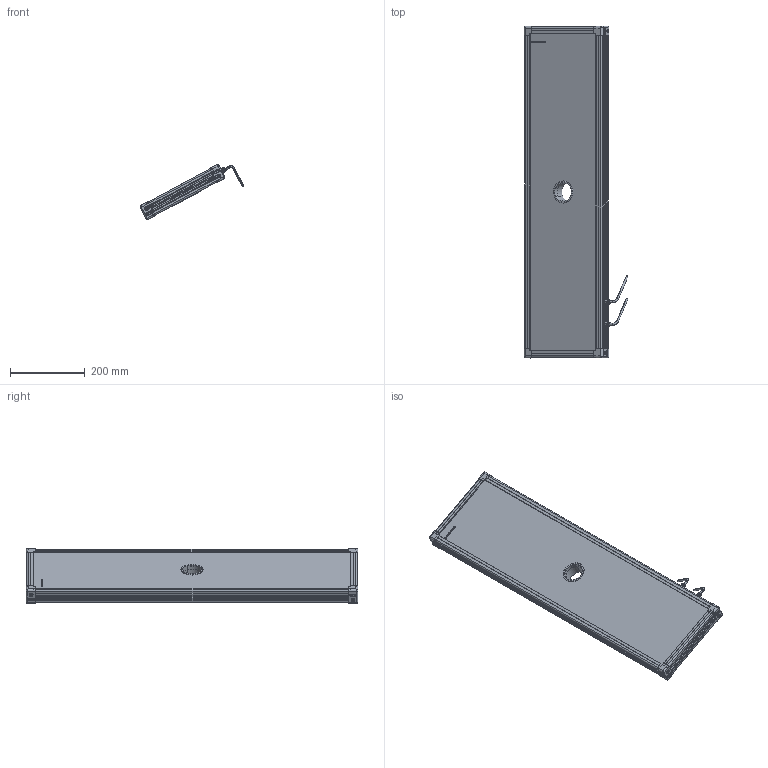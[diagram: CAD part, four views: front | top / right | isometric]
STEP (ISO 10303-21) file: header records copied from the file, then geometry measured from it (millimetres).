
FILE_DESCRIPTION (( 'STEP AP214' ), '1' );
FILE_NAME ('EFFI-FD-200-850-ZZZ-2M12.STEP', '2021-06-21T11:06:42', ( '' ), ( '' ), 'SwSTEP 2.0', 'SolidWorks 2021', '' );
FILE_SCHEMA (( 'AUTOMOTIVE_DESIGN' ));
Length unit declared in the file: millimetre
Products named in the file (13): Assemblage Ø50; profile Y_PERCE; petite joue; cordon_Avec cable; petite joue + vis; EFFI-FD-200-850-ZZZ-2M12; Pièce13^EFFI-BL-XXX-YYY-ZZZ (2 connecteurs) Ø50; profile X_PERCE; 000590; 001040; 001039; 000629
Assembly tree (20 placements, depth 3):
  EFFI-FD-200-850-ZZZ-2M12
    profile X_PERCE  x2
    profile Y_PERCE
    profile Y_PERCE
    Pièce13^EFFI-BL-XXX-YYY-ZZZ (2 connecteurs) Ø50
    petite joue + vis  x4
      petite joue
      000629
    Assemblage Ø50
      001039
      001040
      000590  x3
    cordon_Avec cable  x2
Bounding box: 278.11 x 889 x 146.82 mm (x, y, z)
Volume: 7256405.9 mm3; surface area: 787075.1 mm2
Topology: 22 solids, 34 shells, 4044 faces, 10746 edges, 7052 vertices
Faces by surface type: plane 2495, cylinder 739, bspline 603, cone 154, torus 45, sphere 8
Entity records: 56929 total; most frequent: CARTESIAN_POINT 22745, ORIENTED_EDGE 7120, DIRECTION 5873, EDGE_CURVE 3564, VECTOR 2489, LINE 2489, VERTEX_POINT 2343, AXIS2_PLACEMENT_3D 1692
